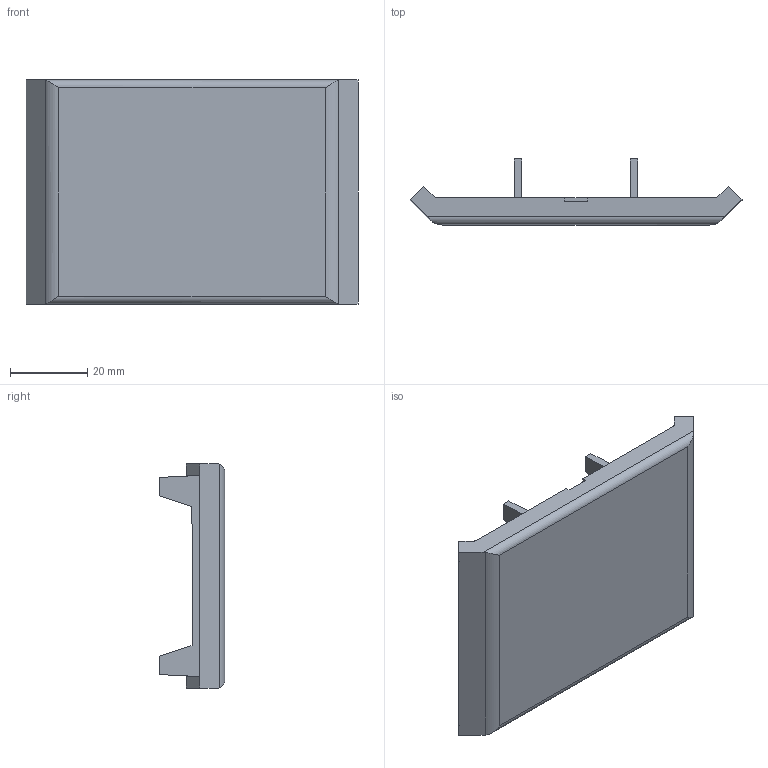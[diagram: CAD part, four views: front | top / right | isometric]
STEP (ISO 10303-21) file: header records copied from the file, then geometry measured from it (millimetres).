
FILE_DESCRIPTION (( 'STEP AP214' ), '1' );
FILE_NAME ('BE FBFA 58B.step', '2017-04-05T07:53:23', ( '' ), ( '' ), 'SwSTEP 2.0', 'SolidWorks 2015', '' );
FILE_SCHEMA (( 'AUTOMOTIVE_DESIGN' ));
Length unit declared in the file: millimetre
Products named in the file (1): BE FBFA 58B
Bounding box: 85.9 x 17 x 58 mm (x, y, z)
Volume: 18134.8 mm3; surface area: 13753 mm2
Topology: 1 solids, 1 shells, 60 faces, 162 edges, 104 vertices
Faces by surface type: plane 50, cylinder 10
Entity records: 1912 total; most frequent: CARTESIAN_POINT 383, ORIENTED_EDGE 324, DIRECTION 288, EDGE_CURVE 162, LINE 142, VECTOR 142, VERTEX_POINT 104, AXIS2_PLACEMENT_3D 73
